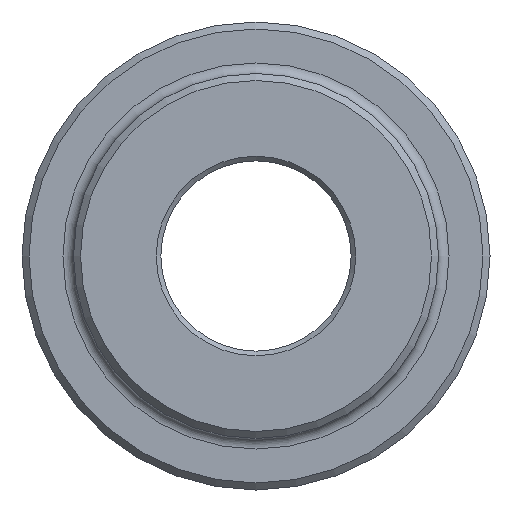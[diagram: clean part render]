
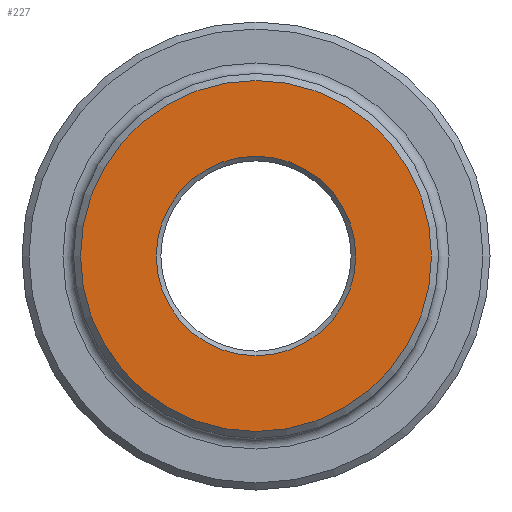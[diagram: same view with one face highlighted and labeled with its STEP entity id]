
A CAD part, left-side view. The second image highlights one B-rep face of the part: STEP entity #227.
In plain terms, the highlighted planar face has unit normal (-1, 0, 0).
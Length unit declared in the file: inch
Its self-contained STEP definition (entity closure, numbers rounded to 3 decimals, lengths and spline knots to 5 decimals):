
#11 = DIRECTION ( 'NONE',  ( 0., 0., -1. ) ) ;
#45 = PLANE ( 'NONE',  #1286 ) ;
#149 = DIRECTION ( 'NONE',  ( 0., 0., -1. ) ) ;
#183 = VERTEX_POINT ( 'NONE', #623 ) ;
#227 = ADVANCED_FACE ( 'NONE', ( #335, #938 ), #45, .F. ) ;
#287 = DIRECTION ( 'NONE',  ( -1., 0., 0. ) ) ;
#335 = FACE_BOUND ( 'NONE', #1830, .T. ) ;
#425 = CARTESIAN_POINT ( 'NONE',  ( 0., 0., 0. ) ) ;
#504 = AXIS2_PLACEMENT_3D ( 'NONE', #1096, #287, #149 ) ;
#528 = CARTESIAN_POINT ( 'NONE',  ( 0., 0., -0.85275 ) ) ;
#623 = CARTESIAN_POINT ( 'NONE',  ( 0., 0., -1.5 ) ) ;
#933 = DIRECTION ( 'NONE',  ( 0., 0., -1. ) ) ;
#938 = FACE_OUTER_BOUND ( 'NONE', #1493, .T. ) ;
#954 = VERTEX_POINT ( 'NONE', #528 ) ;
#960 = EDGE_CURVE ( 'NONE', #954, #954, #1586, .T. ) ;
#996 = DIRECTION ( 'NONE',  ( 1., 0., 0. ) ) ;
#1086 = CARTESIAN_POINT ( 'NONE',  ( 0., 0., 0. ) ) ;
#1089 = EDGE_CURVE ( 'NONE', #183, #183, #1539, .T. ) ;
#1096 = CARTESIAN_POINT ( 'NONE',  ( 0., 0., 0. ) ) ;
#1166 = AXIS2_PLACEMENT_3D ( 'NONE', #425, #1227, #933 ) ;
#1227 = DIRECTION ( 'NONE',  ( 1., 0., 0. ) ) ;
#1243 = ORIENTED_EDGE ( 'NONE', *, *, #1089, .T. ) ;
#1286 = AXIS2_PLACEMENT_3D ( 'NONE', #1086, #996, #11 ) ;
#1493 = EDGE_LOOP ( 'NONE', ( #1243 ) ) ;
#1539 = CIRCLE ( 'NONE', #504, 1.5 ) ;
#1586 = CIRCLE ( 'NONE', #1166, 0.85275 ) ;
#1830 = EDGE_LOOP ( 'NONE', ( #1832 ) ) ;
#1832 = ORIENTED_EDGE ( 'NONE', *, *, #960, .T. ) ;
